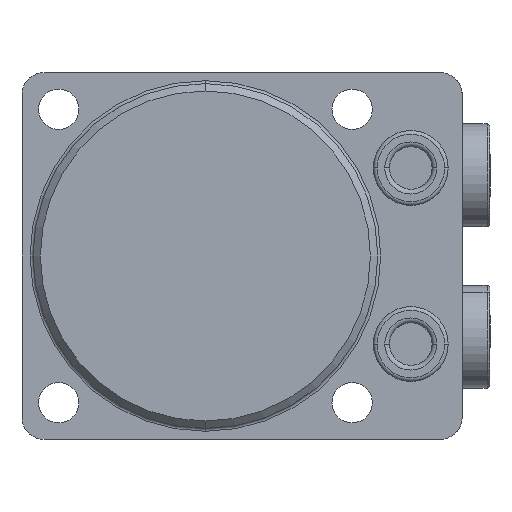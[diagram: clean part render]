
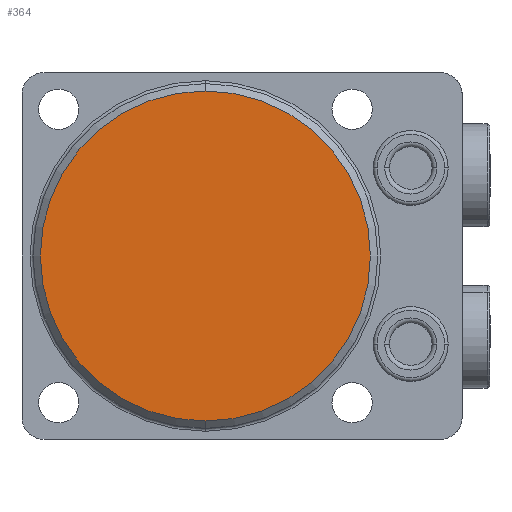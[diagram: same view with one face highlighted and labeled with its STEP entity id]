
A CAD part, front view. The second image highlights one B-rep face of the part: STEP entity #364.
In plain terms, the highlighted planar face has unit normal (0, -1, 0) as drawn and (0, 1, 0) by its records, which use the part's own axes.
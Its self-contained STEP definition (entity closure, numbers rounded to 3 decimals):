
#212=PLANE('',#3204);
#364=ADVANCED_FACE('',(#607),#212,.T.);
#607=FACE_OUTER_BOUND('',#787,.F.);
#787=EDGE_LOOP('',(#1807,#1808));
#1007=CIRCLE('',#3168,22.5);
#1029=CIRCLE('',#3203,22.5);
#1807=ORIENTED_EDGE('',*,*,#2782,.T.);
#1808=ORIENTED_EDGE('',*,*,#2721,.T.);
#2411=VERTEX_POINT('',#4819);
#2412=VERTEX_POINT('',#4820);
#2721=EDGE_CURVE('',#2411,#2412,#1007,.T.);
#2782=EDGE_CURVE('',#2412,#2411,#1029,.T.);
#3168=AXIS2_PLACEMENT_3D('',#4818,#3789,#3790);
#3203=AXIS2_PLACEMENT_3D('',#4948,#3893,#3894);
#3204=AXIS2_PLACEMENT_3D('',#4949,#3895,#3896);
#3789=DIRECTION('',(0.,-1.,0.));
#3790=DIRECTION('',(0.,0.,1.));
#3893=DIRECTION('',(0.,-1.,0.));
#3894=DIRECTION('',(0.,0.,1.));
#3895=DIRECTION('',(0.,1.,0.));
#3896=DIRECTION('',(0.,0.,1.));
#4818=CARTESIAN_POINT('',(0.,0.,0.));
#4819=CARTESIAN_POINT('',(0.,0.,-22.5));
#4820=CARTESIAN_POINT('',(0.,0.,22.5));
#4948=CARTESIAN_POINT('',(0.,0.,0.));
#4949=CARTESIAN_POINT('',(-25.,0.,25.));
